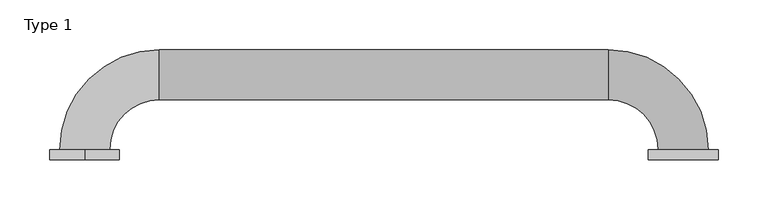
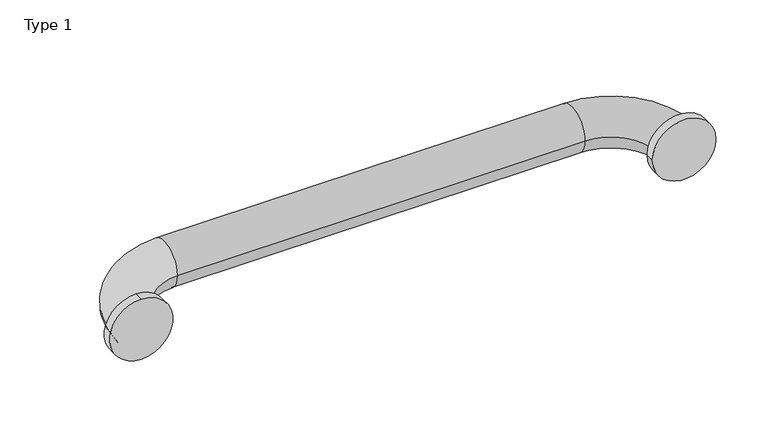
"""IFC4 building model written with IfcOpenShell, lengths in millimetres: proxy geometry, BIMHealth-Grab_Rail_Horizontal-LOD2A-v1 : Type 1."""

from ifc_helpers import new_model, si_unit, point, frame, frame_2d, origin, place, context, project, spatial, circle_curve, ellipse_curve, trimmed, segment, composite_curve, outline, extrude, source, transform, mapped, element, save
from ifc_brep_helpers import plane_surface, cylinder_surface, revolved_surface, advanced_brep


def type_1_021b8e3e(model_context):
    return source(origin(), model_context, "Body", "SolidModel", [
        advanced_brep(
        [(-100.0, 160.0, 680.0), (-100.0, 110.0, 680.0), (350.0, 110.0, 680.0), (350.0, 160.0, 680.0), (-150.0, 60.0, 680.0), (-200.0, 60.0, 680.0), (400.0, 60.0, 680.0), (450.0, 60.0, 680.0)],
        [
            (0, 1, circle_curve(frame((-100.0, 135.0, 680.0), z_axis=(1.0, 0.0, 0.0), x_axis=(0.0, 1.0, 0.0)), 25.0)),
            (1, 2),
            (2, 3, circle_curve(frame((350.0, 135.0, 680.0), z_axis=(-1.0, 0.0, 0.0), x_axis=(0.0, 1.0, 0.0)), 25.0)),
            (3, 0),
            (1, 0, circle_curve(frame((-100.0, 135.0, 680.0), z_axis=(1.0, 0.0, 0.0), x_axis=(0.0, 1.0, 0.0)), 25.0)),
            (3, 2, circle_curve(frame((350.0, 135.0, 680.0), z_axis=(-1.0, 0.0, 0.0), x_axis=(0.0, 1.0, 0.0)), 25.0)),
            (4, 5, circle_curve(frame((-175.0, 60.0, 680.0), z_axis=(0.0, -1.0, 0.0), x_axis=(-1.0, 0.0, 0.0)), 25.0)),
            (5, 4, circle_curve(frame((-175.0, 60.0, 680.0), z_axis=(0.0, -1.0, 0.0), x_axis=(-1.0, 0.0, 0.0)), 25.0)),
            (0, 5, circle_curve(frame((-100.0, 60.0, 680.0), z_axis=(0.0, 0.0, 1.0), x_axis=(-1.0, 0.0, 0.0)), 100.0)),
            (4, 1, circle_curve(frame((-100.0, 60.0, 680.0), z_axis=(0.0, 0.0, -1.0), x_axis=(-1.0, 0.0, 0.0)), 50.0)),
            (6, 7, circle_curve(frame((425.0, 60.0, 680.0), z_axis=(0.0, -1.0, 0.0), x_axis=(1.0, 0.0, 0.0)), 25.0)),
            (7, 6, circle_curve(frame((425.0, 60.0, 680.0), z_axis=(0.0, -1.0, 0.0), x_axis=(1.0, 0.0, 0.0)), 25.0)),
            (7, 3, circle_curve(frame((350.0, 60.0, 680.0), z_axis=(0.0, 0.0, 1.0), x_axis=(0.0, 1.0, 0.0)), 100.0)),
            (2, 6, circle_curve(frame((350.0, 60.0, 680.0), z_axis=(0.0, 0.0, -1.0), x_axis=(0.0, 1.0, 0.0)), 50.0)),
        ],
        [
            cylinder_surface(frame((-100.0, 135.0, 680.0), z_axis=(-1.0, 0.0, 0.0), x_axis=(0.0, 1.0, 0.0)), 25.0),
            plane_surface(frame((-175.0, 60.0, 680.0), z_axis=(0.0, -1.0, 0.0), x_axis=(0.0, 0.0, 1.0))),
            revolved_surface(trimmed(ellipse_curve(frame((-175.0, 60.0, 680.0), z_axis=(0.0, -1.0, 0.0), x_axis=(-1.0, 0.0, 0.0)), 25.0, 25.0), [point((-150.0, 60.0, 680.0))], [point((-200.0, 60.0, 680.0))], True, "CARTESIAN"), (-100.0, 60.0, 680.0), (0.0, 0.0, -1.0)),
            revolved_surface(trimmed(ellipse_curve(frame((-175.0, 60.0, 680.0), z_axis=(0.0, -1.0, 0.0), x_axis=(-1.0, 0.0, 0.0)), 25.0, 25.0), [point((-200.0, 60.0, 680.0))], [point((-150.0, 60.0, 680.0))], True, "CARTESIAN"), (-100.0, 60.0, 680.0), (0.0, 0.0, -1.0)),
            plane_surface(frame((425.0, 60.0, 680.0), z_axis=(0.0, -1.0, 0.0), x_axis=(0.0, 0.0, 1.0))),
            revolved_surface(trimmed(ellipse_curve(frame((350.0, 135.0, 680.0), z_axis=(-1.0, 0.0, 0.0), x_axis=(0.0, 1.0, 0.0)), 25.0, 25.0), [point((350.0, 110.0, 680.0))], [point((350.0, 160.0, 680.0))], True, "CARTESIAN"), (350.0, 60.0, 680.0), (0.0, 0.0, -1.0)),
            revolved_surface(trimmed(ellipse_curve(frame((350.0, 135.0, 680.0), z_axis=(-1.0, 0.0, 0.0), x_axis=(0.0, 1.0, 0.0)), 25.0, 25.0), [point((350.0, 160.0, 680.0))], [point((350.0, 110.0, 680.0))], True, "CARTESIAN"), (350.0, 60.0, 680.0), (0.0, 0.0, -1.0)),
        ],
        [
            (0, [[1, 2, 3, 4]]),
            (0, [[5, -4, 6, -2]]),
            (1, [[7, 8]]),
            (2, [[9, -7, 10, -1]]),
            (3, [[-10, -8, -9, -5]]),
            (4, [[11, 12]]),
            (5, [[13, -3, 14, -12]]),
            (6, [[-14, -6, -13, -11]]),
        ],
    ),
        extrude(outline(composite_curve([segment(trimmed(circle_curve(frame_2d((680.0, 425.0)), 35.0), [point((680.0, 460.0))], [point((680.0, 390.0))], False, "CARTESIAN"), True, "CONTINUOUS"), segment(trimmed(circle_curve(frame_2d((680.0, 425.0)), 35.0), [point((680.0, 390.0))], [point((680.0, 460.0))], False, "CARTESIAN"), True, "CONTINUOUS")], self_intersect=False)), frame((0.0, 50.0, 0.0), z_axis=(0.0, 1.0, 0.0), x_axis=(0.0, 0.0, 1.0)), (0.0, 0.0, 1.0), 10.0),
        extrude(outline(composite_curve([segment(trimmed(circle_curve(frame_2d((680.0, -175.0)), 35.0), [point((715.0, -175.0))], [point((645.0, -175.0))], False, "CARTESIAN"), True, "CONTINUOUS"), segment(trimmed(circle_curve(frame_2d((680.0, -175.0)), 35.0), [point((645.0, -175.0))], [point((715.0, -175.0))], False, "CARTESIAN"), True, "CONTINUOUS")], self_intersect=False)), frame((0.0, 50.0, 0.0), z_axis=(0.0, 1.0, 0.0), x_axis=(0.0, 0.0, 1.0)), (0.0, 0.0, 1.0), 10.0),
    ])


if __name__ == "__main__":
    model = new_model("IFC4")
    model_context = context("Model", 3, world=origin())
    ifc_project = project(units=[si_unit("LENGTHUNIT", "METRE", prefix="MILLI")], contexts=[model_context])
    site = spatial("IfcSite", under=ifc_project)
    building = spatial("IfcBuilding", under=site)
    placement = place(None, origin())
    type_1_shape = type_1_021b8e3e(model_context)
    element("IfcBuildingElementProxy", 1, Name="BIMHealth-Grab_Rail_Horizontal-LOD2A-v1 : Type 1", ObjectType="BIMHealth-Grab_Rail_Horizontal-LOD2A-v1 : Type 1", at=placement, inside=building, context=model_context, shape_type="MappedRepresentation", body=[
        mapped(type_1_shape, transform((0.0, 0.0, 0.0), x_axis=(1.0, 0.0, 0.0), y_axis=(0.0, 1.0, 0.0), z_axis=(0.0, 0.0, 1.0))),
    ])
    save(model, "model.ifc")
